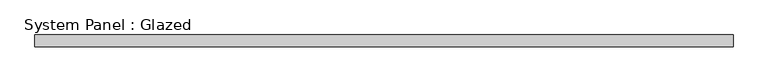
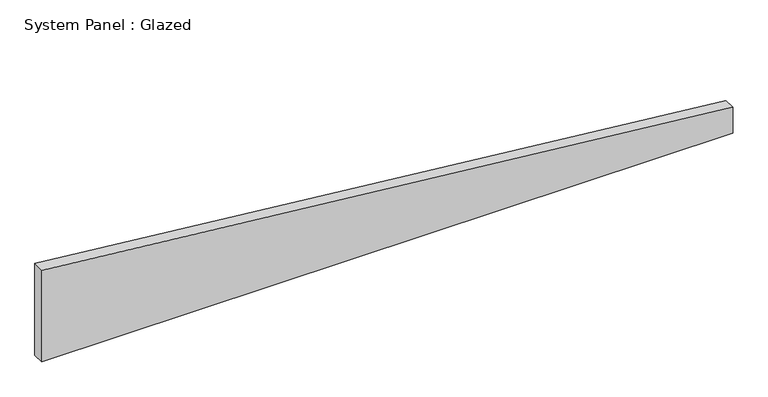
"""IFC4 building model written with IfcOpenShell, lengths in millimetres: plate geometry, System Panel : Glazed."""

from ifc_helpers import new_model, si_unit, frame, origin, place, context, project, spatial, polyline, outline, extrude, source, transform, mapped, element, save


def system_panel_glazed_699b5586(model_context):
    return source(origin(), model_context, "Body", "SweptSolid", [
        extrude(outline(polyline([(0.0, -735.8695652), (0.0, 735.8695652), (58.5441899, 735.8695652), (206.5271686, -735.8695652), (0.0, -735.8695652)])), frame((0.0, 24.5, 0.0), z_axis=(0.0, 1.0, 0.0), x_axis=(0.0, 0.0, 1.0)), (0.0, 0.0, 1.0), 25.0),
    ])


if __name__ == "__main__":
    model = new_model("IFC4")
    model_context = context("Model", 3, world=origin())
    ifc_project = project(units=[si_unit("LENGTHUNIT", "METRE", prefix="MILLI")], contexts=[model_context])
    site = spatial("IfcSite", under=ifc_project)
    building = spatial("IfcBuilding", under=site)
    placement = place(None, origin())
    system_panel_glazed_shape = system_panel_glazed_699b5586(model_context)
    element("IfcPlate", 1, ObjectType="System Panel : Glazed", at=placement, inside=building, context=model_context, shape_type="MappedRepresentation", body=[
        mapped(system_panel_glazed_shape, transform((0.0, 0.0, 0.0), x_axis=(1.0, 0.0, 0.0), y_axis=(0.0, 1.0, 0.0), z_axis=(0.0, 0.0, 1.0))),
    ])
    save(model, "model.ifc")
